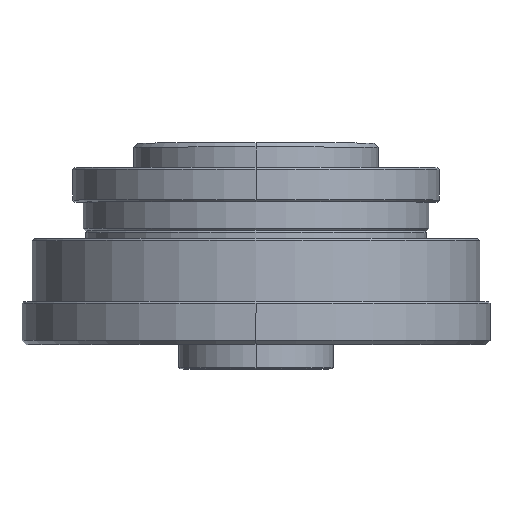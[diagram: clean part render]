
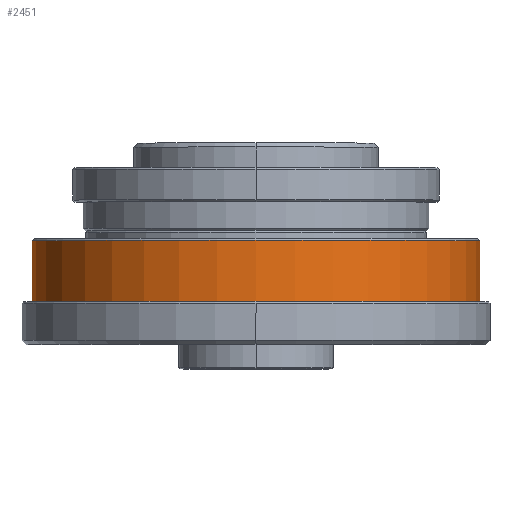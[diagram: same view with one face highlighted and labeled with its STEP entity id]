
A CAD part, top view. The second image highlights one B-rep face of the part: STEP entity #2451.
In plain terms, the highlighted cylindrical face has radius 55 mm (diameter 110 mm), a partial arc.
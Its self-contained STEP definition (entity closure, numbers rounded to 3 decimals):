
#547=DIRECTION('',(0.,-1.,0.));
#548=VECTOR('',#547,17.7);
#549=CARTESIAN_POINT('',(55.,-12.5,0.));
#550=LINE('',#549,#548);
#554=DIRECTION('',(0.,-1.,0.));
#555=VECTOR('',#554,17.7);
#556=CARTESIAN_POINT('',(-55.,-12.5,0.));
#557=LINE('',#556,#555);
#583=CARTESIAN_POINT('',(0.,-30.2,0.));
#584=DIRECTION('',(0.,-1.,0.));
#585=DIRECTION('',(1.,0.,0.));
#586=AXIS2_PLACEMENT_3D('',#583,#584,#585);
#591=CARTESIAN_POINT('',(0.,-12.5,0.));
#592=DIRECTION('',(0.,1.,0.));
#593=DIRECTION('',(-1.,0.,0.));
#594=AXIS2_PLACEMENT_3D('',#591,#592,#593);
#2060=CARTESIAN_POINT('',(-55.,-12.5,0.));
#2062=VERTEX_POINT('',#2060);
#2064=CARTESIAN_POINT('',(55.,-12.5,0.));
#2066=VERTEX_POINT('',#2064);
#2067=CARTESIAN_POINT('',(-55.,-30.2,0.));
#2068=VERTEX_POINT('',#2067);
#2069=CARTESIAN_POINT('',(55.,-30.2,0.));
#2070=VERTEX_POINT('',#2069);
#2439=CARTESIAN_POINT('',(0.,-26.246,0.));
#2440=DIRECTION('',(0.,-1.,0.));
#2441=DIRECTION('',(1.,0.,0.));
#2442=AXIS2_PLACEMENT_3D('',#2439,#2440,#2441);
#2443=CYLINDRICAL_SURFACE('',#2442,55.);
#2444=ORIENTED_EDGE('',*,*,#2430,.T.);
#2445=ORIENTED_EDGE('',*,*,#2405,.F.);
#2447=ORIENTED_EDGE('',*,*,#2446,.T.);
#2448=ORIENTED_EDGE('',*,*,#2402,.T.);
#2449=EDGE_LOOP('',(#2444,#2445,#2447,#2448));
#2450=FACE_OUTER_BOUND('',#2449,.F.);
#587=CIRCLE('',#586,55.);
#595=CIRCLE('',#594,55.);
#2402=EDGE_CURVE('',#2066,#2070,#550,.T.);
#2405=EDGE_CURVE('',#2062,#2068,#557,.T.);
#2430=EDGE_CURVE('',#2070,#2068,#587,.T.);
#2446=EDGE_CURVE('',#2062,#2066,#595,.T.);
#2451=ADVANCED_FACE('',(#2450),#2443,.T.);
